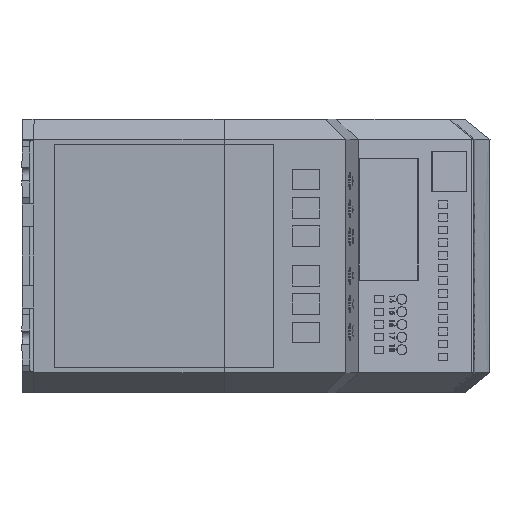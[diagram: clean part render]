
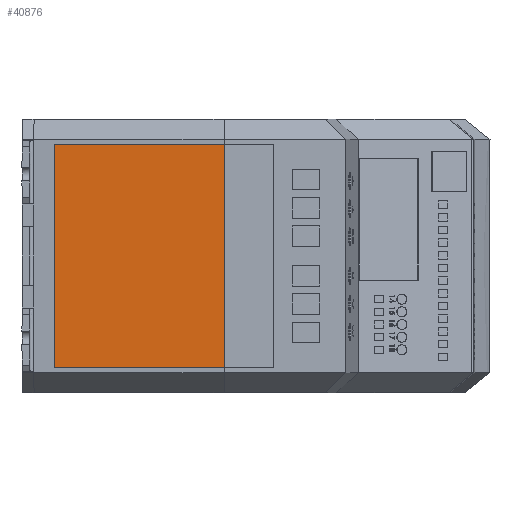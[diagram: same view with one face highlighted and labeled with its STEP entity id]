
A CAD part, front view. The second image highlights one B-rep face of the part: STEP entity #40876.
In plain terms, the highlighted planar face has unit normal (-0.037, -0.999, 0).
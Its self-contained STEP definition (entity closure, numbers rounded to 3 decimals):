
#84 = EDGE_CURVE ( 'NONE', #37439, #26312, #30284, .T. ) ;
#115 = ORIENTED_EDGE ( 'NONE', *, *, #27885, .T. ) ;
#856 = EDGE_CURVE ( 'NONE', #34804, #34086, #44642, .T. ) ;
#2258 = DIRECTION ( 'NONE',  ( 0.037, 0.999, 0. ) ) ;
#5231 = VECTOR ( 'NONE', #29187, 1000. ) ;
#6468 = CARTESIAN_POINT ( 'NONE',  ( -4.072, -112.024, 0. ) ) ;
#8879 = DIRECTION ( 'NONE',  ( -0.999, 0.037, 0. ) ) ;
#12185 = CARTESIAN_POINT ( 'NONE',  ( -70.905, -109.53, 10. ) ) ;
#12448 = EDGE_LOOP ( 'NONE', ( #41388, #14370, #115, #24237 ) ) ;
#12539 = CARTESIAN_POINT ( 'NONE',  ( -70.905, -109.53, 98. ) ) ;
#13462 = VECTOR ( 'NONE', #26860, 1000. ) ;
#14370 = ORIENTED_EDGE ( 'NONE', *, *, #856, .T. ) ;
#19864 = LINE ( 'NONE', #12539, #45568 ) ;
#22727 = CARTESIAN_POINT ( 'NONE',  ( -70.905, -109.53, 10. ) ) ;
#24237 = ORIENTED_EDGE ( 'NONE', *, *, #84, .T. ) ;
#24800 = LINE ( 'NONE', #12185, #13462 ) ;
#25510 = EDGE_CURVE ( 'NONE', #26312, #34804, #24800, .T. ) ;
#26312 = VERTEX_POINT ( 'NONE', #22727 ) ;
#26860 = DIRECTION ( 'NONE',  ( 0.999, -0.037, 0. ) ) ;
#27885 = EDGE_CURVE ( 'NONE', #34086, #37439, #19864, .T. ) ;
#28996 = DIRECTION ( 'NONE',  ( -0.999, 0.037, 0. ) ) ;
#29151 = PLANE ( 'NONE',  #37674 ) ;
#29187 = DIRECTION ( 'NONE',  ( 0., 0., -1. ) ) ;
#29888 = CARTESIAN_POINT ( 'NONE',  ( -4.072, -112.024, 10. ) ) ;
#30284 = LINE ( 'NONE', #36316, #5231 ) ;
#33245 = CARTESIAN_POINT ( 'NONE',  ( -70.905, -109.53, 98. ) ) ;
#34086 = VERTEX_POINT ( 'NONE', #36310 ) ;
#34804 = VERTEX_POINT ( 'NONE', #29888 ) ;
#36310 = CARTESIAN_POINT ( 'NONE',  ( -4.072, -112.024, 98. ) ) ;
#36316 = CARTESIAN_POINT ( 'NONE',  ( -70.905, -109.53, 10. ) ) ;
#37439 = VERTEX_POINT ( 'NONE', #33245 ) ;
#37674 = AXIS2_PLACEMENT_3D ( 'NONE', #40126, #2258, #28996 ) ;
#40126 = CARTESIAN_POINT ( 'NONE',  ( -4.181, -112.02, 0. ) ) ;
#40876 = ADVANCED_FACE ( 'NONE', ( #44951 ), #29151, .F. ) ;
#41388 = ORIENTED_EDGE ( 'NONE', *, *, #25510, .T. ) ;
#43432 = VECTOR ( 'NONE', #48874, 1000. ) ;
#44642 = LINE ( 'NONE', #6468, #43432 ) ;
#44951 = FACE_OUTER_BOUND ( 'NONE', #12448, .T. ) ;
#45568 = VECTOR ( 'NONE', #8879, 1000. ) ;
#48874 = DIRECTION ( 'NONE',  ( 0., 0., 1. ) ) ;
